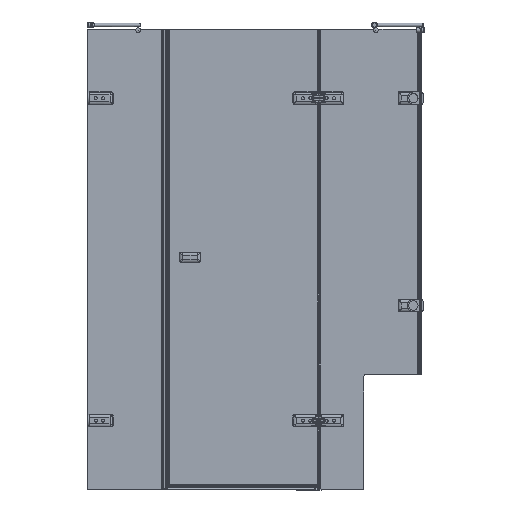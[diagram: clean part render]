
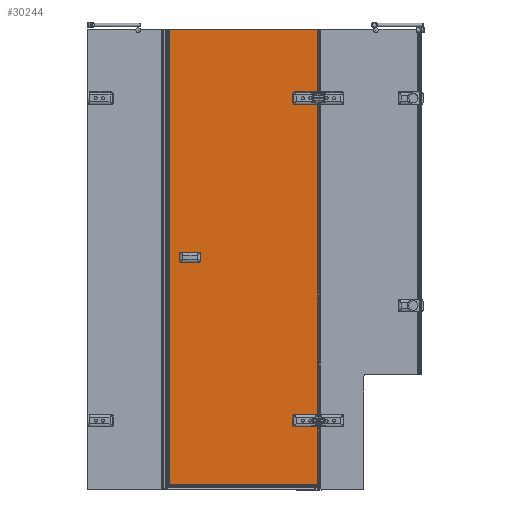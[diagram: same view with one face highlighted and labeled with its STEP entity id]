
A CAD part, left-side view. The second image highlights one B-rep face of the part: STEP entity #30244.
In plain terms, the highlighted planar face has unit normal (-1, 0, 0).
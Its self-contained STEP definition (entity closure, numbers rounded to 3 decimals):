
#1030=LINE($,#58345,#3583);
#1484=LINE($,#60474,#4037);
#1997=LINE($,#65333,#4550);
#2718=LINE($,#70209,#5271);
#2736=LINE($,#70261,#5289);
#2737=LINE($,#70263,#5290);
#2738=LINE($,#70265,#5291);
#2739=LINE($,#70267,#5292);
#2740=LINE($,#70271,#5293);
#2741=LINE($,#70274,#5294);
#2742=LINE($,#70276,#5295);
#2743=LINE($,#70280,#5296);
#3583=VECTOR($,#35178,1362.);
#4037=VECTOR($,#36502,281.);
#4550=VECTOR($,#37931,648.747);
#5271=VECTOR($,#39802,30.747);
#5289=VECTOR($,#39870,1975.4);
#5290=VECTOR($,#39871,648.747);
#5291=VECTOR($,#39872,256.4);
#5292=VECTOR($,#39873,30.747);
#5293=VECTOR($,#39876,18.);
#5294=VECTOR($,#39879,30.747);
#5295=VECTOR($,#39880,30.747);
#5296=VECTOR($,#39883,18.);
#6683=FACE_BOUND($,#9905,.T.);
#6684=FACE_BOUND($,#9906,.T.);
#6685=FACE_BOUND($,#9907,.T.);
#9905=EDGE_LOOP($,(#25043));
#9906=EDGE_LOOP($,(#25044));
#9907=EDGE_LOOP($,(#25045,#25046,#25047,#25048,#25049,#25050,#25051,#25052,
#25053,#25054,#25055,#25056,#25057,#25058,#25059,#25060));
#10484=CIRCLE($,#31072,6.5);
#10653=CIRCLE($,#31508,6.5);
#11070=CIRCLE($,#32759,10.);
#11071=CIRCLE($,#32760,10.);
#11072=CIRCLE($,#32761,10.);
#11073=CIRCLE($,#32762,10.);
#11762=VERTEX_POINT($,#57399);
#11947=VERTEX_POINT($,#58342);
#11948=VERTEX_POINT($,#58344);
#12211=VERTEX_POINT($,#59535);
#12393=VERTEX_POINT($,#60471);
#12394=VERTEX_POINT($,#60473);
#12960=VERTEX_POINT($,#65331);
#13592=VERTEX_POINT($,#70208);
#13601=VERTEX_POINT($,#70260);
#13602=VERTEX_POINT($,#70262);
#13603=VERTEX_POINT($,#70264);
#13604=VERTEX_POINT($,#70266);
#13605=VERTEX_POINT($,#70268);
#13606=VERTEX_POINT($,#70270);
#13607=VERTEX_POINT($,#70272);
#13608=VERTEX_POINT($,#70275);
#13609=VERTEX_POINT($,#70277);
#13610=VERTEX_POINT($,#70279);
#14661=EDGE_CURVE($,#11762,#11762,#10484,.T.);
#14955=EDGE_CURVE($,#11948,#11947,#1030,.T.);
#15360=EDGE_CURVE($,#12211,#12211,#10653,.T.);
#15650=EDGE_CURVE($,#12394,#12393,#1484,.T.);
#16475=EDGE_CURVE($,#12960,#12393,#1997,.T.);
#17485=EDGE_CURVE($,#13592,#12394,#2718,.T.);
#17509=EDGE_CURVE($,#13601,#12960,#2736,.T.);
#17510=EDGE_CURVE($,#13602,#13601,#2737,.T.);
#17511=EDGE_CURVE($,#13602,#13603,#2738,.T.);
#17512=EDGE_CURVE($,#13603,#13604,#2739,.T.);
#17513=EDGE_CURVE($,#13605,#13604,#11070,.T.);
#17514=EDGE_CURVE($,#13605,#13606,#2740,.T.);
#17515=EDGE_CURVE($,#13607,#13606,#11071,.T.);
#17516=EDGE_CURVE($,#13607,#11948,#2741,.T.);
#17517=EDGE_CURVE($,#11947,#13608,#2742,.T.);
#17518=EDGE_CURVE($,#13609,#13608,#11072,.T.);
#17519=EDGE_CURVE($,#13609,#13610,#2743,.T.);
#17520=EDGE_CURVE($,#13592,#13610,#11073,.T.);
#25043=ORIENTED_EDGE($,*,*,#14661,.T.);
#25044=ORIENTED_EDGE($,*,*,#15360,.T.);
#25045=ORIENTED_EDGE($,*,*,#15650,.T.);
#25046=ORIENTED_EDGE($,*,*,#16475,.F.);
#25047=ORIENTED_EDGE($,*,*,#17509,.F.);
#25048=ORIENTED_EDGE($,*,*,#17510,.F.);
#25049=ORIENTED_EDGE($,*,*,#17511,.T.);
#25050=ORIENTED_EDGE($,*,*,#17512,.T.);
#25051=ORIENTED_EDGE($,*,*,#17513,.F.);
#25052=ORIENTED_EDGE($,*,*,#17514,.T.);
#25053=ORIENTED_EDGE($,*,*,#17515,.F.);
#25054=ORIENTED_EDGE($,*,*,#17516,.T.);
#25055=ORIENTED_EDGE($,*,*,#14955,.T.);
#25056=ORIENTED_EDGE($,*,*,#17517,.T.);
#25057=ORIENTED_EDGE($,*,*,#17518,.F.);
#25058=ORIENTED_EDGE($,*,*,#17519,.T.);
#25059=ORIENTED_EDGE($,*,*,#17520,.F.);
#25060=ORIENTED_EDGE($,*,*,#17485,.T.);
#27105=PLANE($,#32758);
#30244=ADVANCED_FACE($,(#6683,#6684,#6685),#27105,.T.);
#31072=AXIS2_PLACEMENT_3D($,#57400,#34605,#34606);
#31508=AXIS2_PLACEMENT_3D($,#59536,#35934,#35935);
#32758=AXIS2_PLACEMENT_3D($,#70259,#39868,#39869);
#32759=AXIS2_PLACEMENT_3D($,#70269,#39874,#39875);
#32760=AXIS2_PLACEMENT_3D($,#70273,#39877,#39878);
#32761=AXIS2_PLACEMENT_3D($,#70278,#39881,#39882);
#32762=AXIS2_PLACEMENT_3D($,#70281,#39884,#39885);
#34605=DIRECTION('center_axis',(1.,0.,0.));
#34606=DIRECTION('ref_axis',(0.,-1.,0.));
#35178=DIRECTION($,(0.,0.,1.));
#35934=DIRECTION('center_axis',(1.,0.,0.));
#35935=DIRECTION('ref_axis',(0.,-1.,0.));
#36502=DIRECTION($,(0.,0.,1.));
#37931=DIRECTION($,(0.,-1.,0.));
#39802=DIRECTION($,(0.,-1.,0.));
#39868=DIRECTION('center_axis',(-1.,0.,0.));
#39869=DIRECTION('ref_axis',(0.,-1.,0.));
#39870=DIRECTION($,(0.,0.,1.));
#39871=DIRECTION($,(0.,1.,0.));
#39872=DIRECTION($,(0.,0.,1.));
#39873=DIRECTION($,(0.,1.,0.));
#39874=DIRECTION('center_axis',(-1.,0.,0.));
#39875=DIRECTION('ref_axis',(0.,0.707,-0.707));
#39876=DIRECTION($,(0.,0.,1.));
#39877=DIRECTION('center_axis',(-1.,0.,0.));
#39878=DIRECTION('ref_axis',(0.,0.707,0.707));
#39879=DIRECTION($,(0.,-1.,0.));
#39880=DIRECTION($,(0.,1.,0.));
#39881=DIRECTION('center_axis',(-1.,0.,0.));
#39882=DIRECTION('ref_axis',(0.,0.707,-0.707));
#39883=DIRECTION($,(0.,0.,1.));
#39884=DIRECTION('center_axis',(-1.,0.,0.));
#39885=DIRECTION('ref_axis',(0.,0.707,0.707));
#57399=CARTESIAN_POINT('',(1225.733,317.456,-214.056));
#57400=CARTESIAN_POINT('Origin',(1225.733,310.956,-214.056));
#58342=CARTESIAN_POINT('',(1225.733,247.209,1166.944));
#58344=CARTESIAN_POINT('',(1225.733,247.209,-195.056));
#58345=CARTESIAN_POINT($,(1225.733,247.209,-204.056));
#59535=CARTESIAN_POINT('',(1225.733,317.456,1185.944));
#59536=CARTESIAN_POINT('Origin',(1225.733,310.956,1185.944));
#60471=CARTESIAN_POINT('',(1225.733,247.209,1485.944));
#60473=CARTESIAN_POINT('',(1225.733,247.209,1204.944));
#60474=CARTESIAN_POINT($,(1225.733,247.209,1195.944));
#65331=CARTESIAN_POINT('',(1225.733,895.956,1485.944));
#65333=CARTESIAN_POINT($,(1225.733,895.956,1485.944));
#70208=CARTESIAN_POINT('',(1225.733,277.956,1204.944));
#70209=CARTESIAN_POINT($,(1225.733,570.956,1204.944));
#70259=CARTESIAN_POINT('Origin',(1225.733,895.956,-494.056));
#70260=CARTESIAN_POINT('',(1225.733,895.956,-489.456));
#70261=CARTESIAN_POINT($,(1225.733,895.956,-494.056));
#70262=CARTESIAN_POINT('',(1225.733,247.209,-489.456));
#70263=CARTESIAN_POINT($,(1225.733,245.956,-489.456));
#70264=CARTESIAN_POINT('',(1225.733,247.209,-233.056));
#70265=CARTESIAN_POINT($,(1225.733,247.209,-224.056));
#70266=CARTESIAN_POINT('',(1225.733,277.956,-233.056));
#70267=CARTESIAN_POINT($,(1225.733,591.956,-233.056));
#70268=CARTESIAN_POINT('',(1225.733,287.956,-223.056));
#70269=CARTESIAN_POINT('Origin',(1225.733,277.956,-223.056));
#70270=CARTESIAN_POINT('',(1225.733,287.956,-205.056));
#70271=CARTESIAN_POINT($,(1225.733,287.956,-344.556));
#70272=CARTESIAN_POINT('',(1225.733,277.956,-195.056));
#70273=CARTESIAN_POINT('Origin',(1225.733,277.956,-205.056));
#70274=CARTESIAN_POINT($,(1225.733,570.956,-195.056));
#70275=CARTESIAN_POINT('',(1225.733,277.956,1166.944));
#70276=CARTESIAN_POINT($,(1225.733,591.956,1166.944));
#70277=CARTESIAN_POINT('',(1225.733,287.956,1176.944));
#70278=CARTESIAN_POINT('Origin',(1225.733,277.956,1176.944));
#70279=CARTESIAN_POINT('',(1225.733,287.956,1194.944));
#70280=CARTESIAN_POINT($,(1225.733,287.956,355.444));
#70281=CARTESIAN_POINT('Origin',(1225.733,277.956,1194.944));
